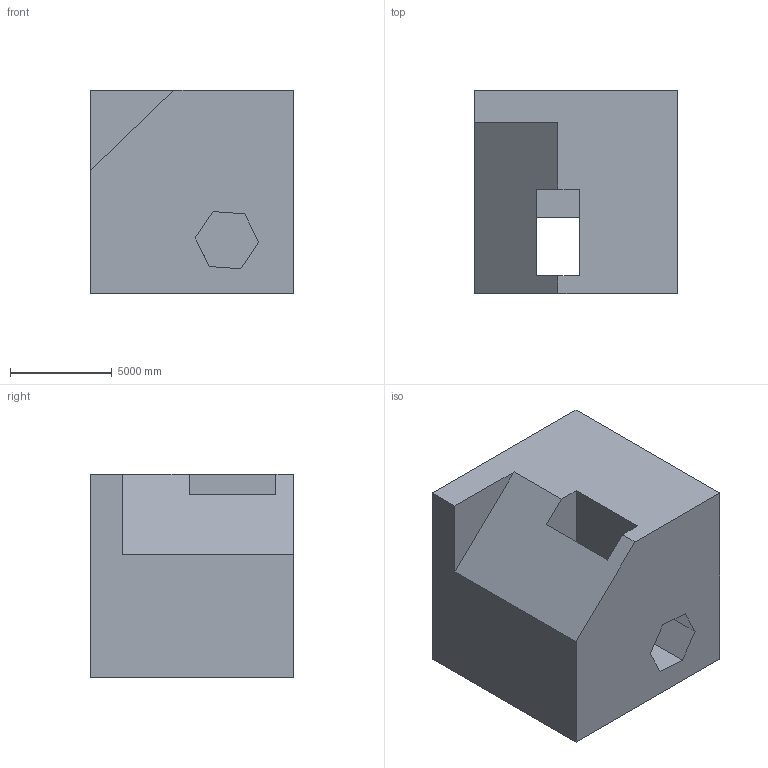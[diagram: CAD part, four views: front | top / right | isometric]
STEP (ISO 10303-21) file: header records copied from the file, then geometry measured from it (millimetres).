
FILE_DESCRIPTION (( 'STEP AP203' ), '1' );
FILE_NAME ('1340.STEP', '2022-08-18T13:52:06', ( 'user' ), ( '' ), 'SwSTEP 2.0', 'SolidWorks 2021', '' );
FILE_SCHEMA (( 'CONFIG_CONTROL_DESIGN' ));
Length unit declared in the file: centimetre
Products named in the file (1): 1340
Bounding box: 10000 x 10000 x 10000 mm (x, y, z)
Volume: 778719515203.7 mm3; surface area: 754486057.4 mm2
Topology: 1 solids, 1 shells, 26 faces, 78 edges, 52 vertices
Faces by surface type: plane 26
Entity records: 947 total; most frequent: CARTESIAN_POINT 157, ORIENTED_EDGE 156, DIRECTION 132, LINE 78, EDGE_CURVE 78, VECTOR 78, VERTEX_POINT 52, EDGE_LOOP 28
